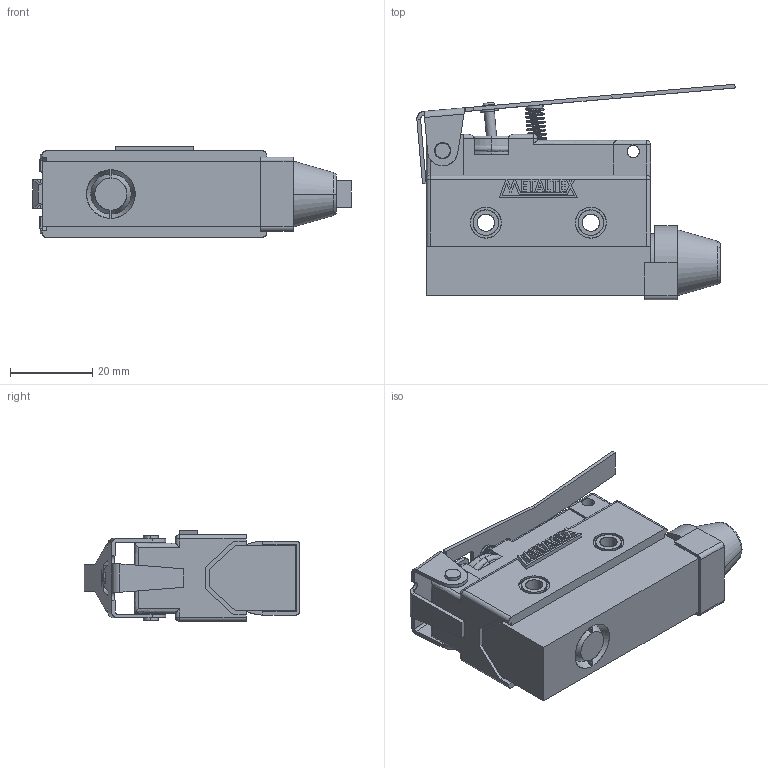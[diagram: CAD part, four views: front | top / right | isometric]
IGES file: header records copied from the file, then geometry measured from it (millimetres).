
Start section: SolidWorks IGES file using analytic representation for surfaces
Global section: file name: D:\X - Arquivos\PROEX\Empresas\P11 - METALTEX\01 - Produtos\IGES\4ª remessa\1ª etapa\FM7120.IGS; native system: SolidWorks 2012; preprocessor: SolidWorks 2012; author: Usuario; date: 180323.102125; units: millimetre
Bounding box: 77.32 x 52.35 x 22 mm (x, y, z)
Surface area: 13292.4 mm2 (no closed solid volume)
Topology: 0 solids, 0 shells, 382 faces, 4442 edges, 4415 vertices
Faces by surface type: bspline 257, revolution 125
